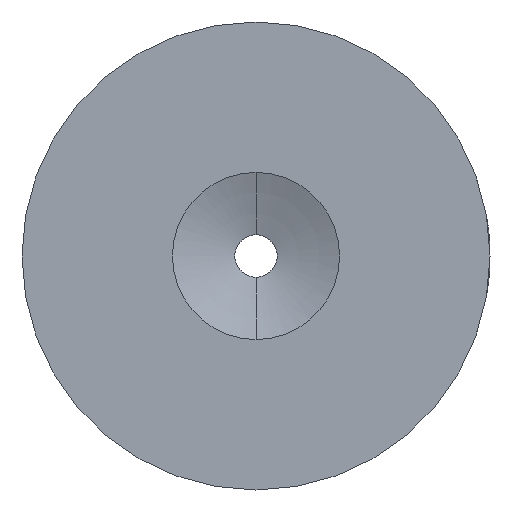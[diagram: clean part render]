
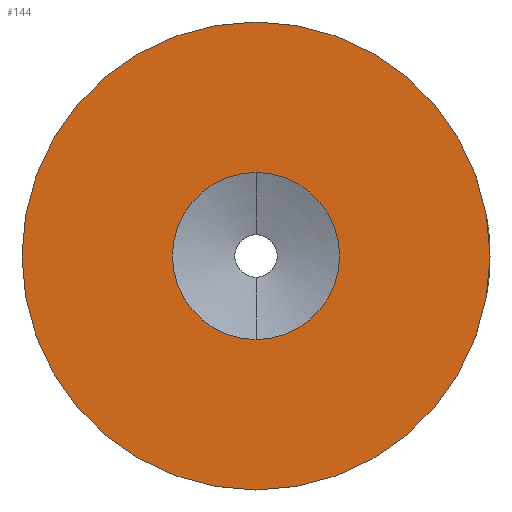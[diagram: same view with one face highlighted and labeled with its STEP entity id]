
A CAD part, left-side view. The second image highlights one B-rep face of the part: STEP entity #144.
In plain terms, the highlighted planar face has unit normal (-1, 0, 0).
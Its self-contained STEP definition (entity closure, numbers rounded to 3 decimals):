
#4 = CIRCLE ( 'NONE', #161, 14. ) ;
#25 = AXIS2_PLACEMENT_3D ( 'NONE', #350, #54, #101 ) ;
#39 = EDGE_CURVE ( 'NONE', #94, #297, #453, .T. ) ;
#40 = CARTESIAN_POINT ( 'NONE',  ( 0., 0., -5. ) ) ;
#54 = DIRECTION ( 'NONE',  ( -1., 0., 0. ) ) ;
#63 = PLANE ( 'NONE',  #417 ) ;
#64 = CARTESIAN_POINT ( 'NONE',  ( 0., 0., 5. ) ) ;
#69 = ORIENTED_EDGE ( 'NONE', *, *, #88, .T. ) ;
#88 = EDGE_CURVE ( 'NONE', #297, #94, #4, .T. ) ;
#94 = VERTEX_POINT ( 'NONE', #132 ) ;
#96 = AXIS2_PLACEMENT_3D ( 'NONE', #328, #212, #120 ) ;
#101 = DIRECTION ( 'NONE',  ( 0., 0., 1. ) ) ;
#108 = EDGE_LOOP ( 'NONE', ( #122, #69 ) ) ;
#120 = DIRECTION ( 'NONE',  ( 0., 0., 1. ) ) ;
#122 = ORIENTED_EDGE ( 'NONE', *, *, #39, .T. ) ;
#128 = CIRCLE ( 'NONE', #25, 5. ) ;
#132 = CARTESIAN_POINT ( 'NONE',  ( 0., 0., 14. ) ) ;
#135 = CARTESIAN_POINT ( 'NONE',  ( 0., 0., 0. ) ) ;
#136 = AXIS2_PLACEMENT_3D ( 'NONE', #135, #287, #210 ) ;
#144 = ADVANCED_FACE ( 'NONE', ( #414, #396 ), #63, .F. ) ;
#159 = VERTEX_POINT ( 'NONE', #64 ) ;
#161 = AXIS2_PLACEMENT_3D ( 'NONE', #191, #493, #433 ) ;
#182 = CARTESIAN_POINT ( 'NONE',  ( 0., 0., -14. ) ) ;
#191 = CARTESIAN_POINT ( 'NONE',  ( 0., 0., 0. ) ) ;
#203 = EDGE_CURVE ( 'NONE', #375, #159, #513, .T. ) ;
#208 = EDGE_LOOP ( 'NONE', ( #470, #458 ) ) ;
#210 = DIRECTION ( 'NONE',  ( 0., 0., 1. ) ) ;
#212 = DIRECTION ( 'NONE',  ( -1., 0., 0. ) ) ;
#271 = DIRECTION ( 'NONE',  ( 0., 0., -1. ) ) ;
#287 = DIRECTION ( 'NONE',  ( -1., 0., 0. ) ) ;
#297 = VERTEX_POINT ( 'NONE', #182 ) ;
#313 = CARTESIAN_POINT ( 'NONE',  ( 0., 1.25, 0. ) ) ;
#328 = CARTESIAN_POINT ( 'NONE',  ( 0., 0., 0. ) ) ;
#350 = CARTESIAN_POINT ( 'NONE',  ( 0., 0., 0. ) ) ;
#375 = VERTEX_POINT ( 'NONE', #40 ) ;
#396 = FACE_OUTER_BOUND ( 'NONE', #108, .T. ) ;
#414 = FACE_BOUND ( 'NONE', #208, .T. ) ;
#417 = AXIS2_PLACEMENT_3D ( 'NONE', #313, #533, #271 ) ;
#433 = DIRECTION ( 'NONE',  ( 0., 0., 1. ) ) ;
#453 = CIRCLE ( 'NONE', #136, 14. ) ;
#458 = ORIENTED_EDGE ( 'NONE', *, *, #203, .F. ) ;
#470 = ORIENTED_EDGE ( 'NONE', *, *, #530, .F. ) ;
#493 = DIRECTION ( 'NONE',  ( -1., 0., 0. ) ) ;
#513 = CIRCLE ( 'NONE', #96, 5. ) ;
#530 = EDGE_CURVE ( 'NONE', #159, #375, #128, .T. ) ;
#533 = DIRECTION ( 'NONE',  ( 1., 0., 0. ) ) ;
